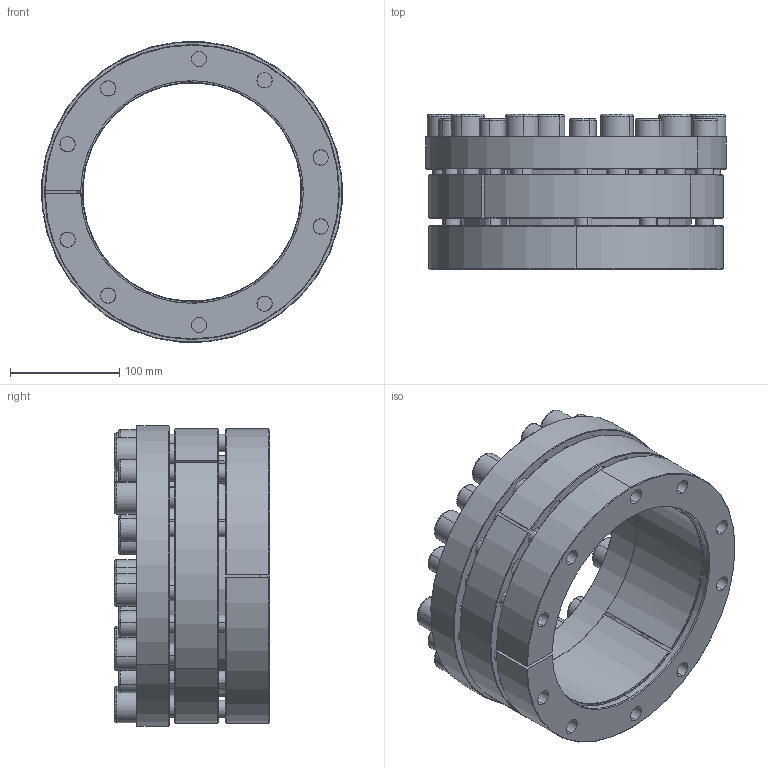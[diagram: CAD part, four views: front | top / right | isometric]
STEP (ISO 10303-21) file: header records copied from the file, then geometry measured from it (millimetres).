
FILE_DESCRIPTION (( 'STEP AP214' ), '1' );
FILE_NAME ('CONEX-P-200x270-P-004.step', '2015-11-30T21:13:56', ( '' ), ( '' ), 'SwSTEP 2.0', 'SolidWorks 2013', '' );
FILE_SCHEMA (( 'AUTOMOTIVE_DESIGN' ));
Length unit declared in the file: millimetre
Products named in the file (1): CONEX-P-200x270-P-004
Bounding box: 275.33 x 142 x 275.33 mm (x, y, z)
Volume: 3075685.5 mm3; surface area: 657704.8 mm2
Topology: 23 solids, 23 shells, 731 faces, 1687 edges, 1003 vertices
Faces by surface type: plane 321, cylinder 209, cone 119, torus 82
Entity records: 28915 total; most frequent: DIRECTION 3870, CARTESIAN_POINT 3516, ORIENTED_EDGE 3294, EDGE_CURVE 1647, AXIS2_PLACEMENT_3D 1523, VERTEX_POINT 1003, EDGE_LOOP 882, LINE 824
